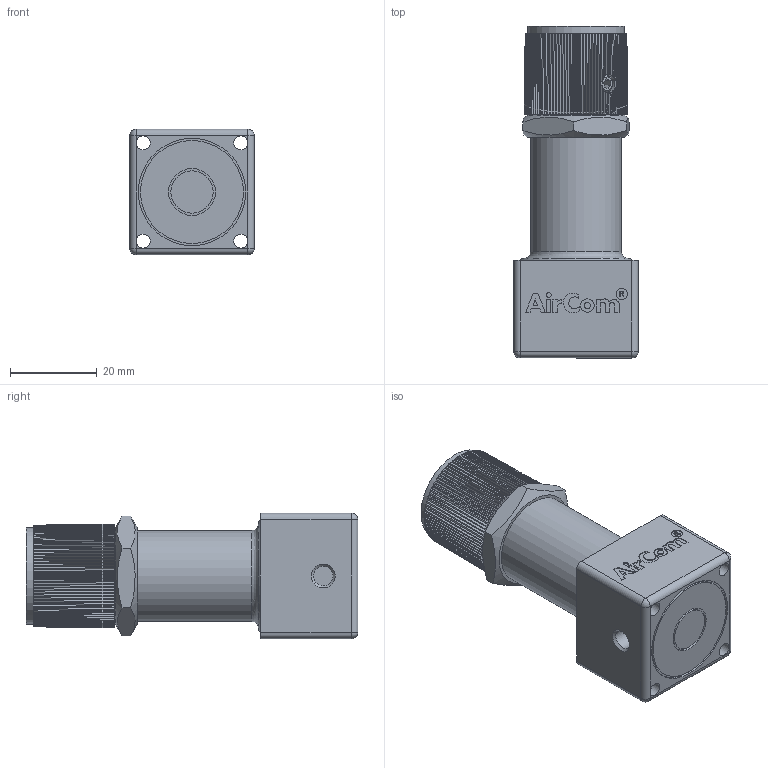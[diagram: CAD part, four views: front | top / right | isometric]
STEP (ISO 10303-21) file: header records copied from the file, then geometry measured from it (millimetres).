
FILE_DESCRIPTION((''),'2;1');
FILE_NAME('F:\AirCom-Produktdokumentation\Druckregler\V900\CAD\CAD AirCom\3D\B.V900-10WK.stp','2008-10-14T17:02:47',('Frank Schroers'),(''),'Autodesk Inventor 2008','Autodesk Inventor 2008','');
FILE_SCHEMA(('AUTOMOTIVE_DESIGN { 1 0 10303 214 1 1 1 1 }'));
Length unit declared in the file: millimetre
Products named in the file (6): B.V900-10WK; B-V900-Gehaeuse-WK; B-V900-Knopf-WK; AS 1421 Ringschneide - Metrisch M4 x 8 Ringschneide; DIN EN 28675 M10 x 1; ISO 4035 M16
Assembly tree (6 placements, depth 2):
  B.V900-10WK
    B-V900-Gehaeuse-WK
    B-V900-Knopf-WK
    AS 1421 Ringschneide - Metrisch M4 x 8 Ringschneide  x2
    DIN EN 28675 M10 x 1
    ISO 4035 M16
Bounding box: 28.8 x 76.64 x 29 mm (x, y, z)
Volume: 38520.6 mm3; surface area: 14209.9 mm2
Topology: 6 solids, 6 shells, 542 faces, 1466 edges, 957 vertices
Faces by surface type: plane 356, cone 133, cylinder 44, bspline 5, sphere 4
Full cylindrical faces by diameter (mm): 1.132 x1, 1.5 x1, 2.634 x1, 3.2 x4, 4 x2, 4.3 x2, 4.5 x2, 6.33 x1, 6.4 x1, 9.8 x1, 10.8 x1, 11 x1, 14.1 x1, 16.7 x1, 18.9 x1, 20 x1, 21 x1, 22.25 x1, 23.8 x1, 24.8 x1
Entity records: 16427 total; most frequent: CARTESIAN_POINT 3643, ORIENTED_EDGE 2748, DIRECTION 2527, EDGE_CURVE 1374, VERTEX_POINT 931, AXIS2_PLACEMENT_3D 900, VECTOR 727, LINE 727
